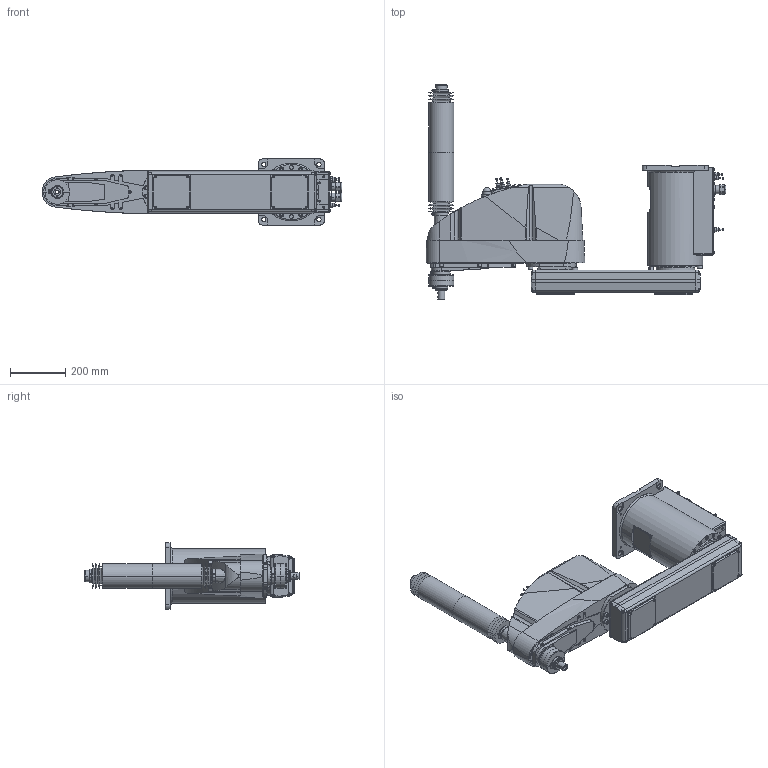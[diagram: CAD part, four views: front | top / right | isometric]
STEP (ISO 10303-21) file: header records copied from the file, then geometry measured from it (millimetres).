
FILE_DESCRIPTION( ( '' ), '1' );
FILE_NAME( '//expscmdclustefs.cadenas.external/client_exchange/iodir/jobs/output/wkb51506193_no0/STEP/G20_854PR_2_03.stp', '2012-11-22T13:38:21', ( '' ), ( '' ), ' ', ' ', ' ' );
FILE_SCHEMA( ( 'CONFIG_CONTROL_DESIGN' ) );
Length unit declared in the file: millimetre
Products named in the file (8): 1; 2; 3; 4; 5; 6; 7; 8
Bounding box: 1089.5 x 777.5 x 240 mm (x, y, z)
Volume: 43302197.5 mm3; surface area: 1737462.1 mm2
Topology: 8 solids, 9 shells, 2075 faces, 4994 edges, 3204 vertices
Faces by surface type: plane 1075, cylinder 682, cone 290, torus 27, sphere 1
Entity records: 62375 total; most frequent: CARTESIAN_POINT 12374, DIRECTION 10726, ORIENTED_EDGE 9956, EDGE_CURVE 4978, AXIS2_PLACEMENT_3D 3811, VERTEX_POINT 3204, LINE 3104, VECTOR 3104
